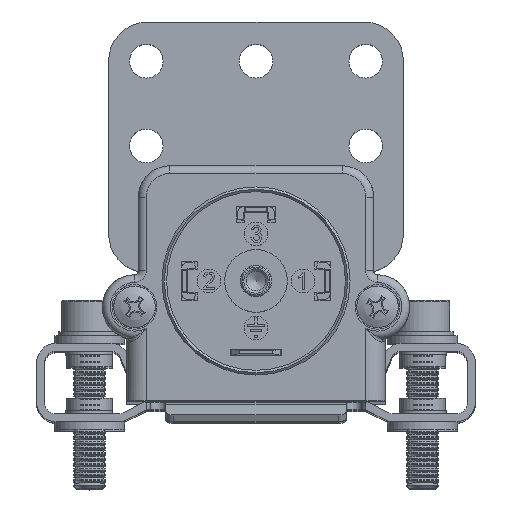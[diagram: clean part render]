
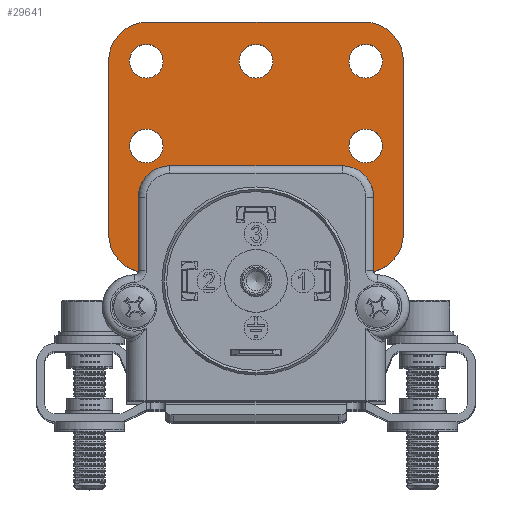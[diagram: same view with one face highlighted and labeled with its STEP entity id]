
A CAD part, top view. The second image highlights one B-rep face of the part: STEP entity #29641.
In plain terms, the highlighted planar face has unit normal (0, 0, 1).
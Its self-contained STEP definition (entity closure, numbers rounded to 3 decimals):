
#232 = EDGE_LOOP ( 'NONE', ( #930 ) ) ;
#350 = CARTESIAN_POINT ( 'NONE',  ( 34.95, -5., 15. ) ) ;
#662 = FACE_BOUND ( 'NONE', #232, .T. ) ;
#762 = EDGE_CURVE ( 'NONE', #9883, #4308, #27204, .T. ) ;
#930 = ORIENTED_EDGE ( 'NONE', *, *, #28067, .F. ) ;
#1026 = DIRECTION ( 'NONE',  ( 1., 0., 0. ) ) ;
#1181 = EDGE_CURVE ( 'NONE', #1473, #18125, #23510, .T. ) ;
#1233 = DIRECTION ( 'NONE',  ( 0., 0., 1. ) ) ;
#1473 = VERTEX_POINT ( 'NONE', #10139 ) ;
#1742 = DIRECTION ( 'NONE',  ( 1., 0., 0. ) ) ;
#1893 = CARTESIAN_POINT ( 'NONE',  ( 5., -5., 15. ) ) ;
#2074 = EDGE_CURVE ( 'NONE', #5740, #1473, #28647, .T. ) ;
#2092 = PLANE ( 'NONE',  #21688 ) ;
#2474 = VERTEX_POINT ( 'NONE', #350 ) ;
#2718 = EDGE_CURVE ( 'NONE', #7279, #7279, #16354, .T. ) ;
#3108 = DIRECTION ( 'NONE',  ( -1., 0., 0. ) ) ;
#3296 = EDGE_CURVE ( 'NONE', #18125, #6770, #7777, .T. ) ;
#3516 = ORIENTED_EDGE ( 'NONE', *, *, #25968, .T. ) ;
#3523 = CARTESIAN_POINT ( 'NONE',  ( 5., -5., 15. ) ) ;
#3637 = EDGE_LOOP ( 'NONE', ( #28301 ) ) ;
#3708 = CARTESIAN_POINT ( 'NONE',  ( 32.6, -5., 15. ) ) ;
#3860 = ORIENTED_EDGE ( 'NONE', *, *, #2074, .T. ) ;
#4070 = VECTOR ( 'NONE', #30557, 1000. ) ;
#4308 = VERTEX_POINT ( 'NONE', #16133 ) ;
#4647 = VERTEX_POINT ( 'NONE', #6229 ) ;
#4688 = CARTESIAN_POINT ( 'NONE',  ( 32.6, -27., 15. ) ) ;
#5266 = EDGE_LOOP ( 'NONE', ( #18860, #9095, #18272, #3860, #27747, #16768, #3516, #24736 ) ) ;
#5593 = DIRECTION ( 'NONE',  ( 0., 0., 1. ) ) ;
#5740 = VERTEX_POINT ( 'NONE', #16680 ) ;
#6229 = CARTESIAN_POINT ( 'NONE',  ( 20.95, -5., 15. ) ) ;
#6748 = VECTOR ( 'NONE', #1742, 1000. ) ;
#6770 = VERTEX_POINT ( 'NONE', #15688 ) ;
#6988 = EDGE_CURVE ( 'NONE', #2474, #2474, #29843, .T. ) ;
#7197 = VERTEX_POINT ( 'NONE', #19589 ) ;
#7228 = ORIENTED_EDGE ( 'NONE', *, *, #26643, .F. ) ;
#7279 = VERTEX_POINT ( 'NONE', #21088 ) ;
#7395 = DIRECTION ( 'NONE',  ( 1., 0., 0. ) ) ;
#7777 = LINE ( 'NONE', #9351, #27860 ) ;
#8327 = AXIS2_PLACEMENT_3D ( 'NONE', #22628, #20559, #25035 ) ;
#8502 = EDGE_LOOP ( 'NONE', ( #20095 ) ) ;
#9095 = ORIENTED_EDGE ( 'NONE', *, *, #13643, .T. ) ;
#9237 = DIRECTION ( 'NONE',  ( 0., 0., -1. ) ) ;
#9351 = CARTESIAN_POINT ( 'NONE',  ( 37.6, -5., 15. ) ) ;
#9883 = VERTEX_POINT ( 'NONE', #17049 ) ;
#10139 = CARTESIAN_POINT ( 'NONE',  ( 32.6, -32., 15. ) ) ;
#10964 = AXIS2_PLACEMENT_3D ( 'NONE', #3523, #5593, #3108 ) ;
#11060 = DIRECTION ( 'NONE',  ( 1., 0., 0. ) ) ;
#11525 = CIRCLE ( 'NONE', #26826, 2.15 ) ;
#12126 = VERTEX_POINT ( 'NONE', #21032 ) ;
#12504 = FACE_OUTER_BOUND ( 'NONE', #5266, .T. ) ;
#13031 = CARTESIAN_POINT ( 'NONE',  ( 4.8, -5., 15. ) ) ;
#13235 = FACE_BOUND ( 'NONE', #8502, .T. ) ;
#13414 = CARTESIAN_POINT ( 'NONE',  ( 5., 0., 15. ) ) ;
#13420 = CIRCLE ( 'NONE', #15875, 2.15 ) ;
#13643 = EDGE_CURVE ( 'NONE', #7197, #12126, #21496, .T. ) ;
#13681 = AXIS2_PLACEMENT_3D ( 'NONE', #3708, #15512, #11060 ) ;
#13728 = DIRECTION ( 'NONE',  ( 0., 0., 1. ) ) ;
#13854 = ORIENTED_EDGE ( 'NONE', *, *, #27328, .F. ) ;
#14072 = CIRCLE ( 'NONE', #18128, 2.15 ) ;
#14868 = AXIS2_PLACEMENT_3D ( 'NONE', #4688, #19107, #28323 ) ;
#15512 = DIRECTION ( 'NONE',  ( 0., 0., 1. ) ) ;
#15688 = CARTESIAN_POINT ( 'NONE',  ( 37.6, -5., 15. ) ) ;
#15875 = AXIS2_PLACEMENT_3D ( 'NONE', #26381, #28658, #7395 ) ;
#16133 = CARTESIAN_POINT ( 'NONE',  ( 5., 0., 15. ) ) ;
#16354 = CIRCLE ( 'NONE', #17912, 2.15 ) ;
#16680 = CARTESIAN_POINT ( 'NONE',  ( 5., -32., 15. ) ) ;
#16721 = DIRECTION ( 'NONE',  ( 0., 1., 0. ) ) ;
#16768 = ORIENTED_EDGE ( 'NONE', *, *, #3296, .T. ) ;
#17049 = CARTESIAN_POINT ( 'NONE',  ( 32.6, 0., 15. ) ) ;
#17349 = FACE_BOUND ( 'NONE', #25973, .T. ) ;
#17912 = AXIS2_PLACEMENT_3D ( 'NONE', #21180, #28141, #23487 ) ;
#18013 = CARTESIAN_POINT ( 'NONE',  ( 32.8, -15.8, 15. ) ) ;
#18125 = VERTEX_POINT ( 'NONE', #27331 ) ;
#18128 = AXIS2_PLACEMENT_3D ( 'NONE', #18013, #13728, #30337 ) ;
#18272 = ORIENTED_EDGE ( 'NONE', *, *, #26916, .T. ) ;
#18505 = DIRECTION ( 'NONE',  ( -1., 0., 0. ) ) ;
#18860 = ORIENTED_EDGE ( 'NONE', *, *, #29017, .T. ) ;
#19107 = DIRECTION ( 'NONE',  ( 0., 0., 1. ) ) ;
#19589 = CARTESIAN_POINT ( 'NONE',  ( 0., -5., 15. ) ) ;
#19929 = FACE_BOUND ( 'NONE', #3637, .T. ) ;
#20095 = ORIENTED_EDGE ( 'NONE', *, *, #2718, .F. ) ;
#20559 = DIRECTION ( 'NONE',  ( 0., 0., 1. ) ) ;
#20730 = CARTESIAN_POINT ( 'NONE',  ( 5., -32., 15. ) ) ;
#21032 = CARTESIAN_POINT ( 'NONE',  ( 0., -27., 15. ) ) ;
#21088 = CARTESIAN_POINT ( 'NONE',  ( 6.95, -15.8, 15. ) ) ;
#21180 = CARTESIAN_POINT ( 'NONE',  ( 4.8, -15.8, 15. ) ) ;
#21194 = DIRECTION ( 'NONE',  ( -1., 0., 0. ) ) ;
#21496 = LINE ( 'NONE', #26093, #4070 ) ;
#21688 = AXIS2_PLACEMENT_3D ( 'NONE', #1893, #9237, #18505 ) ;
#22628 = CARTESIAN_POINT ( 'NONE',  ( 5., -27., 15. ) ) ;
#23032 = CARTESIAN_POINT ( 'NONE',  ( 6.95, -5., 15. ) ) ;
#23487 = DIRECTION ( 'NONE',  ( 1., 0., 0. ) ) ;
#23510 = CIRCLE ( 'NONE', #14868, 5. ) ;
#24323 = VERTEX_POINT ( 'NONE', #27699 ) ;
#24493 = DIRECTION ( 'NONE',  ( 1., 0., 0. ) ) ;
#24736 = ORIENTED_EDGE ( 'NONE', *, *, #762, .T. ) ;
#24974 = CIRCLE ( 'NONE', #13681, 5. ) ;
#25035 = DIRECTION ( 'NONE',  ( -1., 0., 0. ) ) ;
#25968 = EDGE_CURVE ( 'NONE', #6770, #9883, #24974, .T. ) ;
#25973 = EDGE_LOOP ( 'NONE', ( #13854 ) ) ;
#26093 = CARTESIAN_POINT ( 'NONE',  ( 0., -5., 15. ) ) ;
#26158 = VERTEX_POINT ( 'NONE', #23032 ) ;
#26381 = CARTESIAN_POINT ( 'NONE',  ( 18.8, -5., 15. ) ) ;
#26464 = VECTOR ( 'NONE', #21194, 1000. ) ;
#26643 = EDGE_CURVE ( 'NONE', #4647, #4647, #13420, .T. ) ;
#26760 = EDGE_LOOP ( 'NONE', ( #7228 ) ) ;
#26764 = CIRCLE ( 'NONE', #8327, 5. ) ;
#26826 = AXIS2_PLACEMENT_3D ( 'NONE', #13031, #1233, #1026 ) ;
#26916 = EDGE_CURVE ( 'NONE', #12126, #5740, #26764, .T. ) ;
#27204 = LINE ( 'NONE', #13414, #26464 ) ;
#27328 = EDGE_CURVE ( 'NONE', #26158, #26158, #11525, .T. ) ;
#27331 = CARTESIAN_POINT ( 'NONE',  ( 37.6, -27., 15. ) ) ;
#27699 = CARTESIAN_POINT ( 'NONE',  ( 34.95, -15.8, 15. ) ) ;
#27747 = ORIENTED_EDGE ( 'NONE', *, *, #1181, .T. ) ;
#27860 = VECTOR ( 'NONE', #16721, 1000. ) ;
#28067 = EDGE_CURVE ( 'NONE', #24323, #24323, #14072, .T. ) ;
#28141 = DIRECTION ( 'NONE',  ( 0., 0., 1. ) ) ;
#28301 = ORIENTED_EDGE ( 'NONE', *, *, #6988, .F. ) ;
#28323 = DIRECTION ( 'NONE',  ( 1., 0., 0. ) ) ;
#28647 = LINE ( 'NONE', #20730, #6748 ) ;
#28658 = DIRECTION ( 'NONE',  ( 0., 0., 1. ) ) ;
#28822 = FACE_BOUND ( 'NONE', #26760, .T. ) ;
#29017 = EDGE_CURVE ( 'NONE', #4308, #7197, #30734, .T. ) ;
#29137 = DIRECTION ( 'NONE',  ( 0., 0., 1. ) ) ;
#29249 = CARTESIAN_POINT ( 'NONE',  ( 32.8, -5., 15. ) ) ;
#29641 = ADVANCED_FACE ( 'NONE', ( #13235, #662, #19929, #28822, #17349, #12504 ), #2092, .F. ) ;
#29843 = CIRCLE ( 'NONE', #29884, 2.15 ) ;
#29884 = AXIS2_PLACEMENT_3D ( 'NONE', #29249, #29137, #24493 ) ;
#30337 = DIRECTION ( 'NONE',  ( 1., 0., 0. ) ) ;
#30557 = DIRECTION ( 'NONE',  ( 0., -1., 0. ) ) ;
#30734 = CIRCLE ( 'NONE', #10964, 5. ) ;
